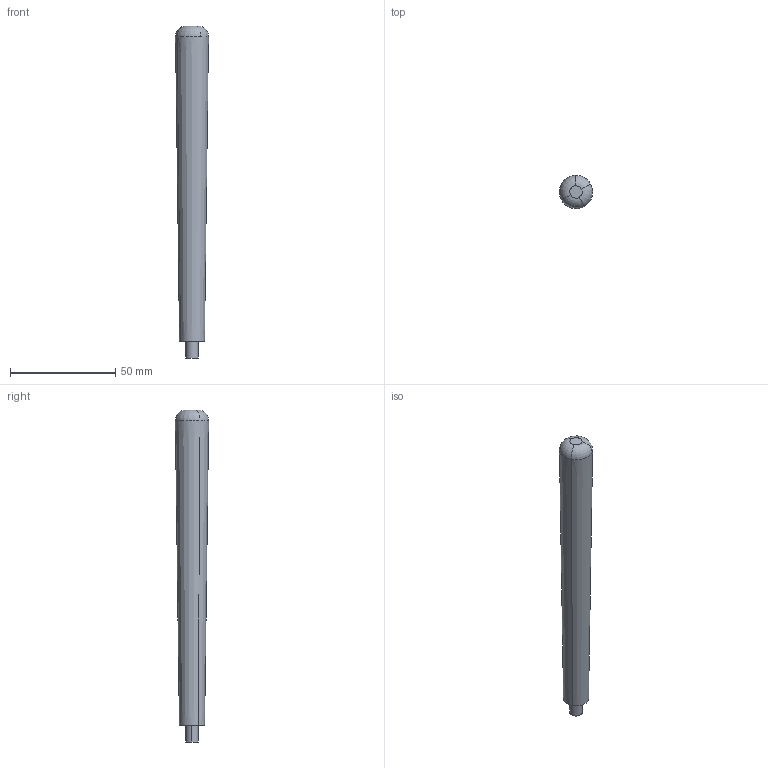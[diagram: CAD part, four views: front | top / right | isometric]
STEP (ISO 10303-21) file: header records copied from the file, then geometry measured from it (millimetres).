
FILE_DESCRIPTION(('CATIA V5 STEP Exchange'),'2;1');
FILE_NAME('C:\Users\hh\Desktop\2.0直通-三通插管治具图纸\手柄.stp','2024-07-22T05:18:39+00:00',('none'),('none'),'CATIA Version 5 Release 21 GA (IN-10)','CATIA V5 STEP AP214','none');
FILE_SCHEMA(('AUTOMOTIVE_DESIGN { 1 0 10303 214 1 1 1 1 }'));
Length unit declared in the file: millimetre
Products named in the file (1): 手柄
Bounding box: 15.86 x 15.85 x 158 mm (x, y, z)
Volume: 23235.8 mm3; surface area: 6940.4 mm2
Topology: 1 solids, 1 shells, 11 faces, 22 edges, 14 vertices
Faces by surface type: revolution 4, plane 3, cylinder 2, cone 2
Entity records: 338 total; most frequent: CARTESIAN_POINT 92, ORIENTED_EDGE 44, DIRECTION 36, AXIS2_PLACEMENT_3D 22, EDGE_CURVE 22, CIRCLE 14, VERTEX_POINT 14, EDGE_LOOP 12
